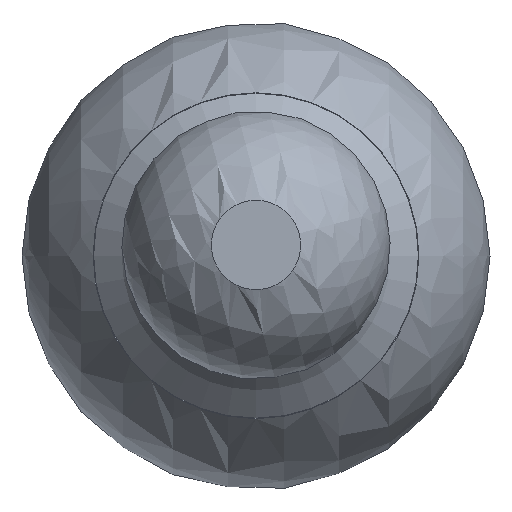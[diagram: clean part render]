
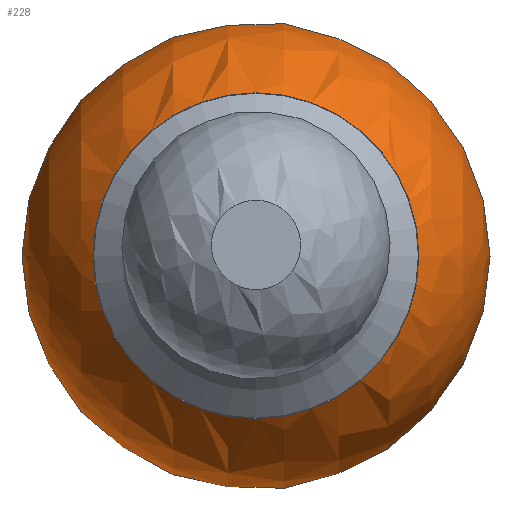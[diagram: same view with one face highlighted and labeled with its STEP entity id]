
A CAD part, top view. The second image highlights one B-rep face of the part: STEP entity #228.
In plain terms, the highlighted spherical face has radius 17 mm.
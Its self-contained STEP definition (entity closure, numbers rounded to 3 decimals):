
#31=SPHERICAL_SURFACE('',#352,17.);
#66=FACE_OUTER_BOUND('',#80,.T.);
#80=EDGE_LOOP('',(#205,#206,#207,#208,#209,#210,#211));
#106=CIRCLE('',#353,11.839);
#107=CIRCLE('',#354,17.);
#108=CIRCLE('',#355,11.839);
#109=CIRCLE('',#356,17.);
#110=CIRCLE('',#357,11.839);
#129=VERTEX_POINT('',#516);
#130=VERTEX_POINT('',#517);
#131=VERTEX_POINT('',#519);
#132=VERTEX_POINT('',#521);
#133=VERTEX_POINT('',#523);
#156=EDGE_CURVE('',#129,#130,#106,.T.);
#157=EDGE_CURVE('',#130,#131,#107,.T.);
#158=EDGE_CURVE('',#130,#132,#108,.T.);
#159=EDGE_CURVE('',#133,#132,#109,.T.);
#160=EDGE_CURVE('',#132,#129,#110,.T.);
#205=ORIENTED_EDGE('',*,*,#156,.T.);
#206=ORIENTED_EDGE('',*,*,#157,.T.);
#207=ORIENTED_EDGE('',*,*,#157,.F.);
#208=ORIENTED_EDGE('',*,*,#158,.T.);
#209=ORIENTED_EDGE('',*,*,#159,.F.);
#210=ORIENTED_EDGE('',*,*,#159,.T.);
#211=ORIENTED_EDGE('',*,*,#160,.T.);
#228=ADVANCED_FACE('',(#66),#31,.T.);
#352=AXIS2_PLACEMENT_3D('',#515,#437,#438);
#353=AXIS2_PLACEMENT_3D('',#518,#439,#440);
#354=AXIS2_PLACEMENT_3D('',#520,#441,#442);
#355=AXIS2_PLACEMENT_3D('',#522,#443,#444);
#356=AXIS2_PLACEMENT_3D('',#524,#445,#446);
#357=AXIS2_PLACEMENT_3D('',#525,#447,#448);
#437=DIRECTION('center_axis',(1.,0.,0.));
#438=DIRECTION('ref_axis',(0.,-1.,0.));
#439=DIRECTION('center_axis',(0.,-1.,0.));
#440=DIRECTION('ref_axis',(0.,0.,
1.));
#441=DIRECTION('center_axis',(0.,0.,
1.));
#442=DIRECTION('ref_axis',(0.,1.,0.));
#443=DIRECTION('center_axis',(0.,-1.,0.));
#444=DIRECTION('ref_axis',(0.,0.,
1.));
#445=DIRECTION('center_axis',(0.,0.,
1.));
#446=DIRECTION('ref_axis',(0.,1.,0.));
#447=DIRECTION('center_axis',(0.,-1.,0.));
#448=DIRECTION('ref_axis',(0.,0.,
1.));
#515=CARTESIAN_POINT('Origin',(0.,0.,
0.));
#516=CARTESIAN_POINT('',(0.,12.2,11.839));
#517=CARTESIAN_POINT('',(-11.839,12.2,0.));
#518=CARTESIAN_POINT('Origin',(0.,12.2,0.));
#519=CARTESIAN_POINT('',(-17.,0.,0.));
#520=CARTESIAN_POINT('Origin',(0.,0.,
0.));
#521=CARTESIAN_POINT('',(11.839,12.2,0.));
#522=CARTESIAN_POINT('Origin',(0.,12.2,0.));
#523=CARTESIAN_POINT('',(17.,0.,0.));
#524=CARTESIAN_POINT('Origin',(0.,0.,
0.));
#525=CARTESIAN_POINT('Origin',(0.,12.2,0.));
